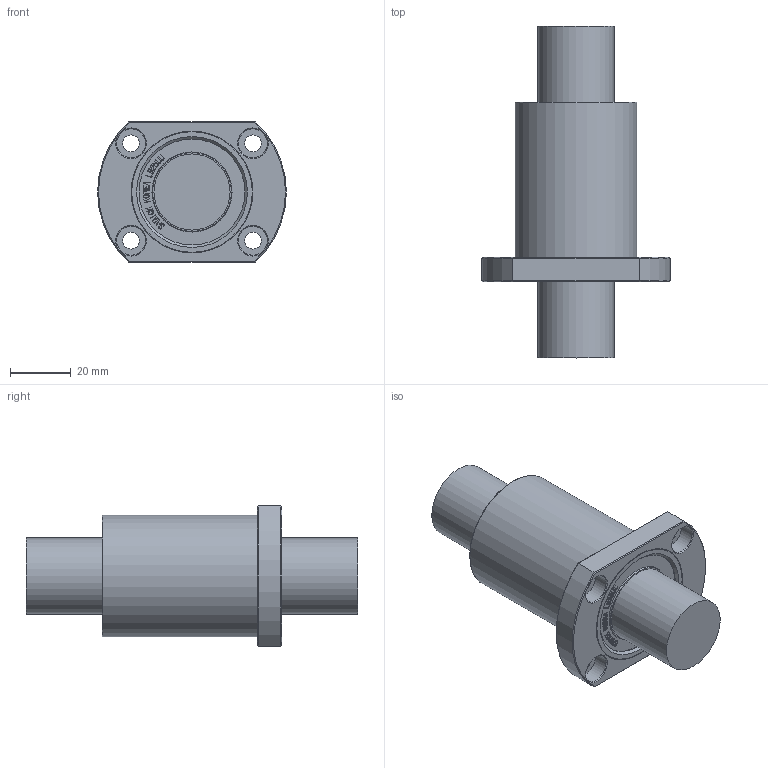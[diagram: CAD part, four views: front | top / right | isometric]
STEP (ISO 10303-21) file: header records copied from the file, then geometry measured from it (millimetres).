
FILE_DESCRIPTION(/* description */ (''),/* implementation_level */ '2;1');
FILE_NAME(/* name */ 'W:\(01) 2024년 홈페이지 CAD파일 최신화\LMH\IPT\LMH25UU.stp',/* time_stamp */ '2025-01-23T09:34:40+09:00',/* author */ ('서우현'),/* organization */ (''),/* preprocessor_version */ 'ST-DEVELOPER v17.2',/* originating_system */ 'Autodesk Inventor 2019',/* authorisation */ '');
FILE_SCHEMA (('AUTOMOTIVE_DESIGN { 1 0 10303 214 3 1 1 }'));
Length unit declared in the file: millimetre
Products named in the file (1): LM5
Bounding box: 62 x 109 x 46 mm (x, y, z)
Volume: 106421.3 mm3; surface area: 17794.8 mm2
Topology: 1 solids, 1 shells, 886 faces, 2498 edges, 1668 vertices
Faces by surface type: bspline 612, plane 240, cone 16, cylinder 16, torus 2
Full cylindrical faces by diameter (mm): 5.5 x4, 9.5 x4, 25 x2, 34.8 x2, 40 x2
Entity records: 30214 total; most frequent: CARTESIAN_POINT 10577, ORIENTED_EDGE 4996, EDGE_CURVE 2498, DIRECTION 1898, VERTEX_POINT 1668, B_SPLINE_CURVE_WITH_KNOTS 1224, LINE 1184, VECTOR 1184
